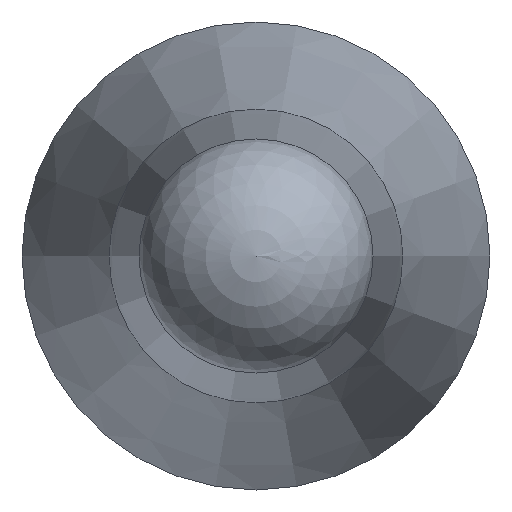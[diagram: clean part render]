
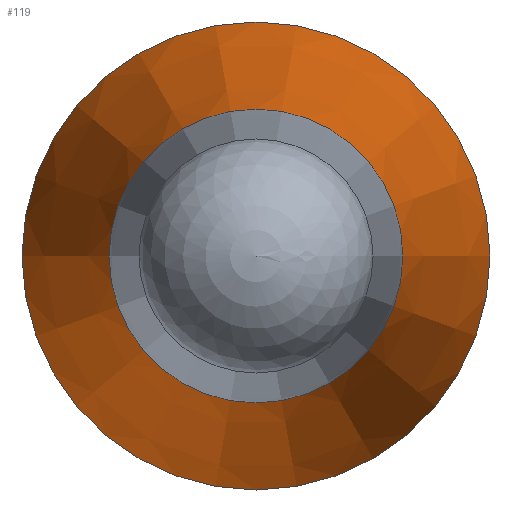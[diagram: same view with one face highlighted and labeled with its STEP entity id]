
A CAD part, left-side view. The second image highlights one B-rep face of the part: STEP entity #119.
In plain terms, the highlighted conical face has half-angle 12 degrees and reference radius 3 mm.
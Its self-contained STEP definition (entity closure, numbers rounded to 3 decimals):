
#97=CONICAL_SURFACE('',#194,3.,12.);
#106=FACE_BOUND('',#134,.T.);
#107=FACE_BOUND('',#135,.T.);
#119=ADVANCED_FACE('',(#106,#107),#97,.T.);
#134=EDGE_LOOP('',(#150));
#135=EDGE_LOOP('',(#151));
#150=ORIENTED_EDGE('',*,*,#172,.F.);
#151=ORIENTED_EDGE('',*,*,#173,.T.);
#164=VERTEX_POINT('',#249);
#165=VERTEX_POINT('',#252);
#172=EDGE_CURVE('',#164,#164,#180,.T.);
#173=EDGE_CURVE('',#165,#165,#181,.T.);
#180=CIRCLE('',#191,1.882);
#181=CIRCLE('',#193,3.);
#191=AXIS2_PLACEMENT_3D('',#248,#215,#216);
#193=AXIS2_PLACEMENT_3D('',#251,#219,#220);
#194=AXIS2_PLACEMENT_3D('',#253,#221,#222);
#215=DIRECTION('',(-1.,0.,0.));
#216=DIRECTION('',(0.,-1.,0.));
#219=DIRECTION('',(-1.,0.,0.));
#220=DIRECTION('',(0.,-1.,0.));
#221=DIRECTION('',(1.,0.,0.));
#222=DIRECTION('',(0.,1.,0.));
#248=CARTESIAN_POINT('',(7923.912,6103.288,0.));
#249=CARTESIAN_POINT('',(7923.912,6101.406,0.));
#251=CARTESIAN_POINT('',(7929.171,6103.288,0.));
#252=CARTESIAN_POINT('',(7929.171,6100.288,0.));
#253=CARTESIAN_POINT('',(7929.171,6103.288,0.));
